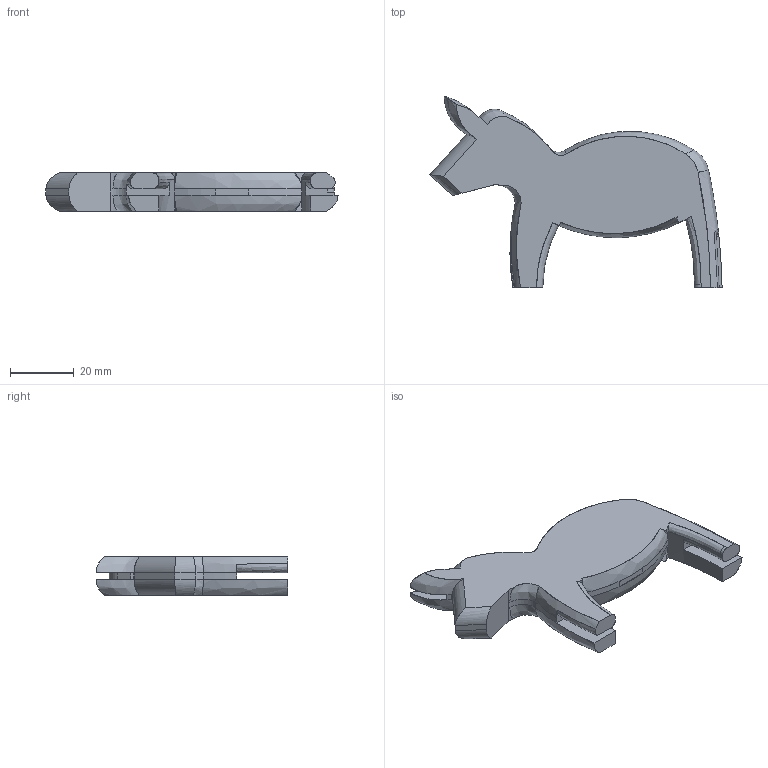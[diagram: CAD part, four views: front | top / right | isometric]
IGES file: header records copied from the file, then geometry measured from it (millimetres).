
Start section: SolidWorks IGES FILE using analytic representation for surfaces
Global section: file name: Y:\CONTENTCENTRAL\dala2\cache\DADEFAU06142003122729.igs; native system: SolidWorks 2003 by SolidWorks Corporation; preprocessor: Version 5.3; author: partstream; date: 030614.123546; units: millimetre
Bounding box: 91.4 x 59.97 x 12 mm (x, y, z)
Surface area: 9084.1 mm2 (no closed solid volume)
Topology: 0 solids, 0 shells, 95 faces, 901 edges, 901 vertices
Faces by surface type: bspline 71, revolution 24
